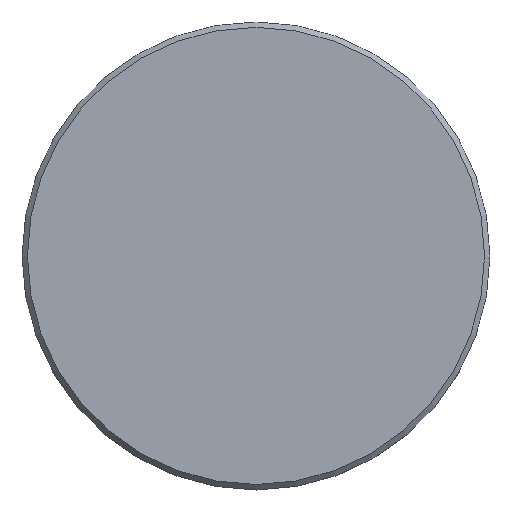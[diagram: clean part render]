
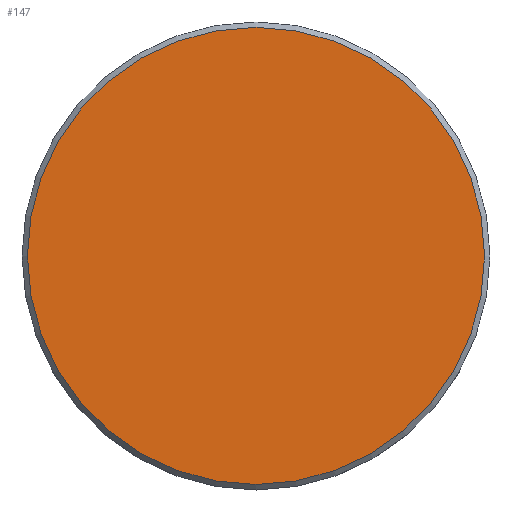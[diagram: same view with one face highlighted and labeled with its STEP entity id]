
A CAD part, top view. The second image highlights one B-rep face of the part: STEP entity #147.
In plain terms, the highlighted planar face has unit normal (0, 0, 1).
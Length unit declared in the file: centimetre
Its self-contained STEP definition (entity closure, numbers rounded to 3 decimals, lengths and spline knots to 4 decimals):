
#105=PLANE('',#156);
#110=VERTEX_POINT('',#168);
#114=CIRCLE('',#155,1.0846);
#118=EDGE_CURVE('',#110,#110,#114,.T.);
#126=ORIENTED_EDGE('',*,*,#118,.F.);
#134=EDGE_LOOP('',(#126));
#142=FACE_BOUND('',#134,.T.);
#147=ADVANCED_FACE('',(#142),#105,.T.);
#155=AXIS2_PLACEMENT_3D('',#167,#183,#184);
#156=AXIS2_PLACEMENT_3D('',#169,#185,$);
#167=CARTESIAN_POINT('',(0.,0.,0.4039));
#168=CARTESIAN_POINT('',(1.0846,0.,0.4039));
#169=CARTESIAN_POINT('',(0.,0.,0.4039));
#183=DIRECTION('',(0.,0.,-1.));
#184=DIRECTION('',(-1.085,0.,0.));
#185=DIRECTION('',(0.,0.,1.));
